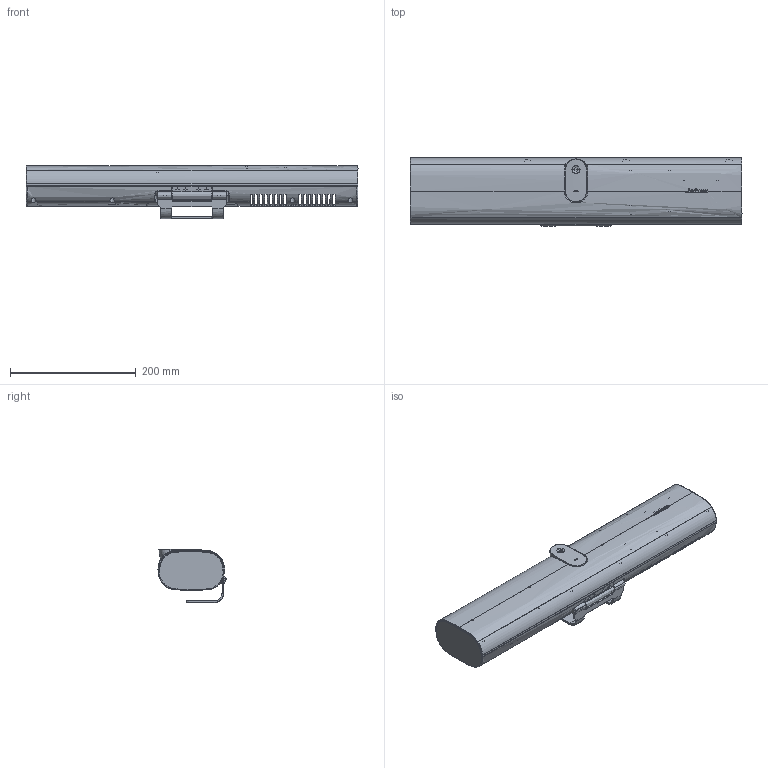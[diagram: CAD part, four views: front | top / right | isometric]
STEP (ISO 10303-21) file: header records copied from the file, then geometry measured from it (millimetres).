
FILE_DESCRIPTION(/* description */ (''),/* implementation_level */ '2;1');
FILE_NAME(/* name */ '260528_Jabra-U30_Simplified',/* time_stamp */ '2026-05-28T16:28:27+02:00',/* author */ (''),/* organization */ (''),/* preprocessor_version */ 'ST-DEVELOPER v16.5',/* originating_system */ 'Rhino 7.38',/* authorisation */ '');
FILE_SCHEMA (('AUTOMOTIVE_DESIGN'));
Length unit declared in the file: millimetre
Products named in the file (1): Document
Bounding box: 529 x 108.53 x 85.03 mm (x, y, z)
Volume: 206695.2 mm3; surface area: 593650 mm2
Topology: 73 solids, 192 shells, 7085 faces, 23242 edges, 16373 vertices
Faces by surface type: bspline 2733, plane 2614, cylinder 1738
Entity records: 406522 total; most frequent: CARTESIAN_POINT 270650, ORIENTED_EDGE 40601, EDGE_CURVE 23209, B_SPLINE_CURVE_WITH_KNOTS 18164, VERTEX_POINT 16372, EDGE_LOOP 8021, ADVANCED_FACE 7085, FACE_OUTER_BOUND 7085
